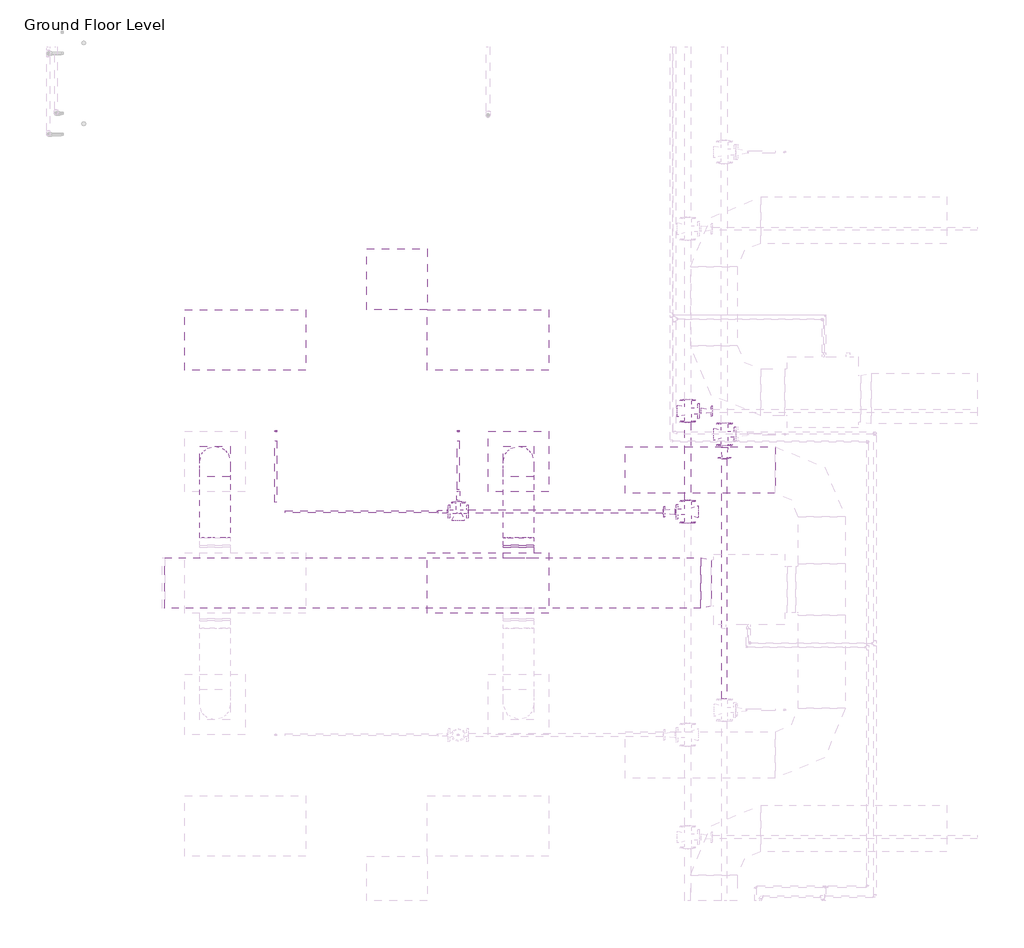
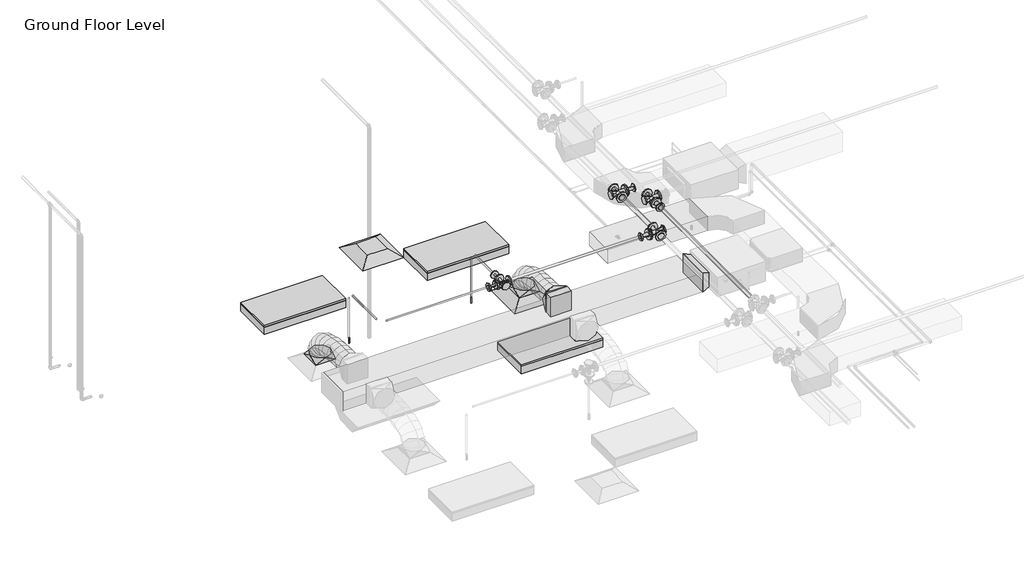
# One storey, part 61 of 73: 9 pipe fittings, 8 pipe segments, 5 duct fittings, 5 duct segments, 3 light fixtures, 2 air terminals, 2 fire suppression terminals.
"""IFC4 building model written with IfcOpenShell, lengths in millimetres."""

from ifc_helpers import new_model, si_unit, point, frame, frame_2d, origin, place, context, project, spatial, polyline, circle_curve, ellipse_curve, trimmed, segment, composite_curve, outline, extrude, transform, mapped, element, save
from ifc_brep_helpers import plane_surface, cylinder_surface, advanced_brep
from components import m_return_diffuser_600_x_600_face_300_x_300_connection_ff221211, m_rectangular_takeoff_standard_2be5eba1, m_rectangular_transition_angle_45_degree_2b595dfe, m_rectangular_to_round_transition_angle_45_degree_641efff0, m_sprinkler_dry_pendent_hosted_15_mm_dry_pendent_9bda8e11, m_troffer_light_parabolic_rectangular1_0600x1200mm_4_lamp_86473d4a, m_reducer_flanged_cs_class_150_standard_ccf252ad, m_reducer_flanged_cs_class_150_standard_3ab32b2b, m_reducer_flanged_cs_class_150_standard_a7631c35, m_tee_round_base_flanged_cs_class_150_standard_dd767e04, m_tee_round_base_flanged_cs_class_150_standard_7e5987a1

model = new_model("IFC4")

# Units and contexts
model_context = context("Model", 3, world=origin())
ifc_project = project(units=[si_unit("LENGTHUNIT", "METRE", prefix="MILLI")], contexts=[model_context])

# Site, building, storey
site = spatial("IfcSite", under=ifc_project)
building = spatial("IfcBuilding", under=site)
storey = spatial("IfcBuildingStorey", under=building, Name="Ground Floor Level", Elevation=900.0)

# Air terminals
placement = place(None, origin())
m_return_diffuser_600_x_600_face_300_x_300_connection_shape = m_return_diffuser_600_x_600_face_300_x_300_connection_ff221211(model_context)
element("IfcAirTerminal", 1, ObjectType="M_Return Diffuser : 600 x 600 Face 300 x 300 Connection", at=placement, inside=storey, context=model_context, shape_type="MappedRepresentation", body=[
    mapped(m_return_diffuser_600_x_600_face_300_x_300_connection_shape, transform((2762.7672395, 7135.2153534, 3650.0), x_axis=(1.0, 0.0, 0.0), y_axis=(0.0, 1.0, 0.0), z_axis=(0.0, 0.0, 1.0))),
])
element("IfcAirTerminal", 2, ObjectType="M_Supply Diffuser : 600 x 600 Face 300 x 300 Connection", at=placement, inside=storey, context=model_context, shape_type="MappedRepresentation", body=[
    mapped(m_return_diffuser_600_x_600_face_300_x_300_connection_shape, transform((3962.7672395, 5335.2153534, 3650.0), x_axis=(1.0, 0.0, 0.0), y_axis=(0.0, 1.0, 0.0), z_axis=(0.0, 0.0, 1.0))),
])

# Duct fittings
m_rectangular_takeoff_standard_shape = m_rectangular_takeoff_standard_2be5eba1(model_context)
element("IfcDuctFitting", 3, ObjectType="M_Rectangular Takeoff : Standard", at=placement, inside=storey, context=model_context, shape_type="MappedRepresentation", body=[
    mapped(m_rectangular_takeoff_standard_shape, transform((3962.7672395, 4385.0199167, 4099.9957478), x_axis=(0.0, 1.0, 0.0), y_axis=(1.0, 0.0, 0.0), z_axis=(0.0, 0.0, -1.0))),
])
m_rectangular_transition_angle_45_degree_shape = m_rectangular_transition_angle_45_degree_2b595dfe(model_context)
element("IfcDuctFitting", 4, ObjectType="M_Rectangular Transition - Angle : 45 Degree", at=placement, inside=storey, context=model_context, shape_type="MappedRepresentation", body=[
    mapped(m_rectangular_transition_angle_45_degree_shape, transform((5868.0139492, 4135.0199167, 4100.0), x_axis=(-1.0, 0.0, 0.0), y_axis=(0.0, -1.0, 0.0), z_axis=(0.0, 0.0, 1.0))),
])
m_rectangular_to_round_transition_angle_45_degree_shape = m_rectangular_to_round_transition_angle_45_degree_641efff0(model_context)
element("IfcDuctFitting", 5, ObjectType="M_Rectangular to Round Transition - Angle : 45 Degree", at=placement, inside=storey, context=model_context, shape_type="MappedRepresentation", body=[
    mapped(m_rectangular_to_round_transition_angle_45_degree_shape, transform((962.7672395, 5335.2153534, 3751.6), x_axis=(0.0, 0.0, 1.0), y_axis=(-1.0, 0.0, 0.0), z_axis=(0.0, -1.0, 0.0))),
])
element("IfcDuctFitting", 6, ObjectType="M_Rectangular to Round Transition - Angle : 45 Degree", at=placement, inside=storey, context=model_context, shape_type="MappedRepresentation", body=[
    mapped(m_rectangular_to_round_transition_angle_45_degree_shape, transform((3962.7672395, 5335.2153534, 3751.6), x_axis=(0.0, 0.0, 1.0), y_axis=(-1.0, 0.0, 0.0), z_axis=(0.0, -1.0, 0.0))),
])
element("IfcDuctFitting", 7, ObjectType="M_Rectangular to Round Transition - Angle : 45 Degree", at=placement, inside=storey, context=model_context, shape_type="MappedRepresentation", body=[
    mapped(m_rectangular_to_round_transition_angle_45_degree_shape, transform((3962.7672395, 4507.8751699, 4099.9957478), x_axis=(0.0, 1.0, 0.0), y_axis=(-1.0, 0.0, 0.0), z_axis=(0.0, 0.0, 1.0))),
])

# Duct segments
element("IfcDuctSegment", 8, ObjectType="Flex - Round", at=placement, inside=storey, context=model_context, shape_type="AdvancedBrep", body=[
    advanced_brep(
    [(1112.7672395, 5335.2153534, 3826.6), (962.7672395, 5185.2153534, 3826.6), (812.7672395, 5335.2153534, 3826.6), (962.7672395, 5485.2153534, 3826.6), (1112.7672395, 5335.2153534, 3857.9381871), (962.7672395, 5185.2153534, 3832.2943835), (812.7672395, 5335.2153534, 3857.9381871), (962.7672395, 5485.2153534, 3883.5819907), (1112.7672395, 5318.1991066, 3906.2507795), (962.7672395, 5184.4618414, 3834.4337577), (812.7672395, 5318.1991066, 3906.2507795), (962.7672395, 5451.9363718, 3978.0678013), (1112.7672395, 5271.0143708, 3968.7107945), (962.7672395, 5166.8104112, 3857.7995469), (812.7672395, 5271.0143708, 3968.7107945), (962.7672395, 5375.2183303, 4079.622042), (1112.7672395, 5199.4571526, 4016.0681304), (962.7672395, 5130.5261535, 3881.8128585), (812.7672395, 5199.4571526, 4016.0681304), (962.7672395, 5268.3881516, 4150.3234022), (1112.7672395, 5109.3234587, 4050.4108726), (962.7672395, 5065.7660366, 3906.4877598), (812.7672395, 5109.3234587, 4050.4108726), (962.7672395, 5152.8808808, 4194.3339853), (1112.7672395, 5006.4092959, 4073.8271066), (962.7672395, 4979.8515391, 3926.0360311), (812.7672395, 5006.4092959, 4073.8271066), (962.7672395, 5032.9670528, 4221.618182), (1112.7672395, 4896.5106709, 4088.4049176), (962.7672395, 4881.3625214, 3939.1003829), (812.7672395, 4896.5106709, 4088.4049176), (962.7672395, 4911.6588205, 4237.7094524), (1112.7672395, 4785.4235904, 4096.2323912), (962.7672395, 4777.9204039, 3946.3891733), (812.7672395, 4785.4235904, 4096.2323912), (962.7672395, 4792.9267769, 4246.0756092), (1112.7672395, 4678.9440611, 4099.3976128), (962.7672395, 4676.2538265, 3949.4113245), (812.7672395, 4678.9440611, 4099.3976128), (962.7672395, 4681.6342958, 4249.383901), (1112.7672395, 4582.8680897, 4099.9886676), (962.7672395, 4583.7908652, 4249.9858292), (812.7672395, 4582.8680897, 4099.9886676), (962.7672395, 4581.9453142, 3949.991506)],
    [
        (0, 1, circle_curve(frame((962.7672395, 5335.2153534, 3826.6), z_axis=(0.0, 0.0, -1.0), x_axis=(1.0, 0.0, 0.0)), 150.0)),
        (1, 2, circle_curve(frame((962.7672395, 5335.2153534, 3826.6), z_axis=(0.0, 0.0, -1.0), x_axis=(1.0, 0.0, 0.0)), 150.0)),
        (2, 3, circle_curve(frame((962.7672395, 5335.2153534, 3826.6), z_axis=(0.0, 0.0, -1.0), x_axis=(1.0, 0.0, 0.0)), 150.0)),
        (3, 0, circle_curve(frame((962.7672395, 5335.2153534, 3826.6), z_axis=(0.0, 0.0, -1.0), x_axis=(1.0, 0.0, 0.0)), 150.0)),
        (0, 4),
        (4, 5, ellipse_curve(frame((962.7672395, 5335.2153534, 3857.9381871), z_axis=(0.0, 0.16851385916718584, -0.9856992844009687), x_axis=(0.0, -0.9856992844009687, -0.16851385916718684)), 152.176229, 150.0)),
        (5, 1),
        (5, 6, ellipse_curve(frame((962.7672395, 5335.2153534, 3857.9381871), z_axis=(0.0, 0.16851385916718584, -0.9856992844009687), x_axis=(0.0, -0.9856992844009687, -0.16851385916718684)), 152.176229, 150.0)),
        (6, 2),
        (6, 7, ellipse_curve(frame((962.7672395, 5335.2153534, 3857.9381871), z_axis=(0.0, 0.16851385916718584, -0.9856992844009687), x_axis=(0.0, -0.9856992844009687, -0.16851385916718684)), 152.176229, 150.0)),
        (7, 3),
        (7, 4, ellipse_curve(frame((962.7672395, 5335.2153534, 3857.9381871), z_axis=(0.0, 0.16851385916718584, -0.9856992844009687), x_axis=(0.0, -0.9856992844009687, -0.16851385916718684)), 152.176229, 150.0)),
        (4, 8),
        (8, 9, ellipse_curve(frame((962.7672395, 5318.1991066, 3906.2507795), z_axis=(0.0, 0.4731018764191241, -0.8810077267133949), x_axis=(0.0, -0.8810077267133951, -0.4731018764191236)), 151.8003318, 150.0)),
        (9, 5),
        (9, 10, ellipse_curve(frame((962.7672395, 5318.1991066, 3906.2507795), z_axis=(0.0, 0.4731018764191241, -0.8810077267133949), x_axis=(0.0, -0.8810077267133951, -0.4731018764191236)), 151.8003318, 150.0)),
        (10, 6),
        (10, 11, ellipse_curve(frame((962.7672395, 5318.1991066, 3906.2507795), z_axis=(0.0, 0.4731018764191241, -0.8810077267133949), x_axis=(0.0, -0.8810077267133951, -0.4731018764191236)), 151.8003318, 150.0)),
        (11, 7),
        (11, 8, ellipse_curve(frame((962.7672395, 5318.1991066, 3906.2507795), z_axis=(0.0, 0.4731018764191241, -0.8810077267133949), x_axis=(0.0, -0.8810077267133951, -0.4731018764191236)), 151.8003318, 150.0)),
        (8, 12),
        (12, 13, ellipse_curve(frame((962.7672395, 5271.0143708, 3968.7107945), z_axis=(0.0, 0.728800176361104, -0.6847264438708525), x_axis=(0.0, -0.6847264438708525, -0.7288001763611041)), 152.1833434, 150.0)),
        (13, 9),
        (13, 14, ellipse_curve(frame((962.7672395, 5271.0143708, 3968.7107945), z_axis=(0.0, 0.728800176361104, -0.6847264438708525), x_axis=(0.0, -0.6847264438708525, -0.7288001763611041)), 152.1833434, 150.0)),
        (14, 10),
        (14, 15, ellipse_curve(frame((962.7672395, 5271.0143708, 3968.7107945), z_axis=(0.0, 0.728800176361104, -0.6847264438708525), x_axis=(0.0, -0.6847264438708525, -0.7288001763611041)), 152.1833434, 150.0)),
        (15, 11),
        (15, 12, ellipse_curve(frame((962.7672395, 5271.0143708, 3968.7107945), z_axis=(0.0, 0.728800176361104, -0.6847264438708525), x_axis=(0.0, -0.6847264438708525, -0.7288001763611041)), 152.1833434, 150.0)),
        (12, 16),
        (16, 17, ellipse_curve(frame((962.7672395, 5199.4571526, 4016.0681304), z_axis=(0.0, 0.8895963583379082, -0.456747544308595), x_axis=(0.0, -0.4567475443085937, -0.8895963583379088)), 150.9170655, 150.0)),
        (17, 13),
        (17, 18, ellipse_curve(frame((962.7672395, 5199.4571526, 4016.0681304), z_axis=(0.0, 0.8895963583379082, -0.456747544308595), x_axis=(0.0, -0.4567475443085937, -0.8895963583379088)), 150.9170655, 150.0)),
        (18, 14),
        (18, 19, ellipse_curve(frame((962.7672395, 5199.4571526, 4016.0681304), z_axis=(0.0, 0.8895963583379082, -0.456747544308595), x_axis=(0.0, -0.4567475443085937, -0.8895963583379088)), 150.9170655, 150.0)),
        (19, 15),
        (19, 16, ellipse_curve(frame((962.7672395, 5199.4571526, 4016.0681304), z_axis=(0.0, 0.8895963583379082, -0.456747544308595), x_axis=(0.0, -0.4567475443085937, -0.8895963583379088)), 150.9170655, 150.0)),
        (16, 20),
        (20, 21, ellipse_curve(frame((962.7672395, 5109.3234587, 4050.4108726), z_axis=(0.0, 0.9571270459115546, -0.2896684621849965), x_axis=(0.0, -0.28966846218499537, -0.957127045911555)), 150.3699152, 150.0)),
        (21, 17),
        (21, 22, ellipse_curve(frame((962.7672395, 5109.3234587, 4050.4108726), z_axis=(0.0, 0.9571270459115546, -0.2896684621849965), x_axis=(0.0, -0.28966846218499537, -0.957127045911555)), 150.3699152, 150.0)),
        (22, 18),
        (22, 23, ellipse_curve(frame((962.7672395, 5109.3234587, 4050.4108726), z_axis=(0.0, 0.9571270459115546, -0.2896684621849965), x_axis=(0.0, -0.28966846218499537, -0.957127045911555)), 150.3699152, 150.0)),
        (23, 19),
        (23, 20, ellipse_curve(frame((962.7672395, 5109.3234587, 4050.4108726), z_axis=(0.0, 0.9571270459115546, -0.2896684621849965), x_axis=(0.0, -0.28966846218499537, -0.957127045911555)), 150.3699152, 150.0)),
        (20, 24),
        (24, 25, ellipse_curve(frame((962.7672395, 5006.4092959, 4073.8271066), z_axis=(0.0, 0.984235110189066, -0.17686505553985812), x_axis=(0.0, -0.17686505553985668, -0.9842351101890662)), 150.1583045, 150.0)),
        (25, 21),
        (25, 26, ellipse_curve(frame((962.7672395, 5006.4092959, 4073.8271066), z_axis=(0.0, 0.984235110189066, -0.17686505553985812), x_axis=(0.0, -0.17686505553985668, -0.9842351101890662)), 150.1583045, 150.0)),
        (26, 22),
        (26, 27, ellipse_curve(frame((962.7672395, 5006.4092959, 4073.8271066), z_axis=(0.0, 0.984235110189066, -0.17686505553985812), x_axis=(0.0, -0.17686505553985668, -0.9842351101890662)), 150.1583045, 150.0)),
        (27, 23),
        (27, 24, ellipse_curve(frame((962.7672395, 5006.4092959, 4073.8271066), z_axis=(0.0, 0.984235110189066, -0.17686505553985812), x_axis=(0.0, -0.17686505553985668, -0.9842351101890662)), 150.1583045, 150.0)),
        (24, 28),
        (28, 29, ellipse_curve(frame((962.7672395, 4896.5106709, 4088.4049176), z_axis=(0.0, 0.9948925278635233, -0.1009398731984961), x_axis=(0.0, -0.10093987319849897, -0.994892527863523)), 150.0710183, 150.0)),
        (29, 25),
        (29, 30, ellipse_curve(frame((962.7672395, 4896.5106709, 4088.4049176), z_axis=(0.0, 0.9948925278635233, -0.1009398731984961), x_axis=(0.0, -0.10093987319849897, -0.994892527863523)), 150.0710183, 150.0)),
        (30, 26),
        (30, 31, ellipse_curve(frame((962.7672395, 4896.5106709, 4088.4049176), z_axis=(0.0, 0.9948925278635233, -0.1009398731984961), x_axis=(0.0, -0.10093987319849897, -0.994892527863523)), 150.0710183, 150.0)),
        (31, 27),
        (31, 28, ellipse_curve(frame((962.7672395, 4896.5106709, 4088.4049176), z_axis=(0.0, 0.9948925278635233, -0.1009398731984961), x_axis=(0.0, -0.10093987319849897, -0.994892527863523)), 150.0710183, 150.0)),
        (28, 32),
        (32, 33, ellipse_curve(frame((962.7672395, 4785.4235904, 4096.2323912), z_axis=(0.0, 0.9987486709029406, -0.05001092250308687), x_axis=(0.0, -0.05001092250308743, -0.9987486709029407)), 150.0309561, 150.0)),
        (33, 29),
        (33, 34, ellipse_curve(frame((962.7672395, 4785.4235904, 4096.2323912), z_axis=(0.0, 0.9987486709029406, -0.05001092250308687), x_axis=(0.0, -0.05001092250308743, -0.9987486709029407)), 150.0309561, 150.0)),
        (34, 30),
        (34, 35, ellipse_curve(frame((962.7672395, 4785.4235904, 4096.2323912), z_axis=(0.0, 0.9987486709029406, -0.05001092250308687), x_axis=(0.0, -0.05001092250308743, -0.9987486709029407)), 150.0309561, 150.0)),
        (35, 31),
        (35, 32, ellipse_curve(frame((962.7672395, 4785.4235904, 4096.2323912), z_axis=(0.0, 0.9987486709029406, -0.05001092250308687), x_axis=(0.0, -0.05001092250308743, -0.9987486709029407)), 150.0309561, 150.0)),
        (32, 36),
        (36, 37, ellipse_curve(frame((962.7672395, 4678.9440611, 4099.3976128), z_axis=(0.0, 0.9998391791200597, -0.017933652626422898), x_axis=(0.0, -0.017933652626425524, -0.9998391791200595)), 150.0104131, 150.0)),
        (37, 33),
        (37, 38, ellipse_curve(frame((962.7672395, 4678.9440611, 4099.3976128), z_axis=(0.0, 0.9998391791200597, -0.017933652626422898), x_axis=(0.0, -0.017933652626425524, -0.9998391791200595)), 150.0104131, 150.0)),
        (38, 34),
        (38, 39, ellipse_curve(frame((962.7672395, 4678.9440611, 4099.3976128), z_axis=(0.0, 0.9998391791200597, -0.017933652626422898), x_axis=(0.0, -0.017933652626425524, -0.9998391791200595)), 150.0104131, 150.0)),
        (39, 35),
        (39, 36, ellipse_curve(frame((962.7672395, 4678.9440611, 4099.3976128), z_axis=(0.0, 0.9998391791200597, -0.017933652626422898), x_axis=(0.0, -0.017933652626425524, -0.9998391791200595)), 150.0104131, 150.0)),
        (40, 41, circle_curve(frame((962.7672395, 4582.8680897, 4099.9886676), z_axis=(0.0, -0.9999810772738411, 0.006151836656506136), x_axis=(1.0, 0.0, 0.0)), 150.0)),
        (41, 42, circle_curve(frame((962.7672395, 4582.8680897, 4099.9886676), z_axis=(0.0, -0.9999810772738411, 0.006151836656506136), x_axis=(1.0, 0.0, 0.0)), 150.0)),
        (42, 43, circle_curve(frame((962.7672395, 4582.8680897, 4099.9886676), z_axis=(0.0, -0.9999810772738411, 0.006151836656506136), x_axis=(1.0, 0.0, 0.0)), 150.0)),
        (43, 40, circle_curve(frame((962.7672395, 4582.8680897, 4099.9886676), z_axis=(0.0, -0.9999810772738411, 0.006151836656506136), x_axis=(1.0, 0.0, 0.0)), 150.0)),
        (36, 40),
        (43, 37),
        (42, 38),
        (41, 39),
    ],
    [
        plane_surface(frame((962.7672395, 5185.2153534, 3826.6), z_axis=(0.0, 0.0, -1.0), x_axis=(1.0, 0.0, 0.0))),
        cylinder_surface(frame((962.7672395, 5335.2153534, 3826.6), z_axis=(0.0, 0.0, -1.0), x_axis=(1.0, 0.0, 0.0)), 150.0),
        cylinder_surface(frame((962.7672395, 5335.2153534, 3857.9381871), z_axis=(0.0, 0.33220798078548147, -0.9432061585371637), x_axis=(1.0, 0.0, 0.0)), 150.0),
        cylinder_surface(frame((962.7672395, 5318.1991066, 3906.2507795), z_axis=(0.0, 0.6027739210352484, -0.7979120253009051), x_axis=(1.0, 0.0, 0.0)), 150.0),
        cylinder_surface(frame((962.7672395, 5271.0143708, 3968.7107945), z_axis=(0.0, 0.8339145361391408, -0.5518936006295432), x_axis=(1.0, 0.0, 0.0)), 150.0),
        cylinder_surface(frame((962.7672395, 5199.4571526, 4016.0681304), z_axis=(0.0, 0.9344667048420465, -0.35605052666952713), x_axis=(1.0, 0.0, 0.0)), 150.0),
        cylinder_surface(frame((962.7672395, 5109.3234587, 4050.4108726), z_axis=(0.0, 0.9750782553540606, -0.2218612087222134), x_axis=(1.0, 0.0, 0.0)), 150.0),
        cylinder_surface(frame((962.7672395, 5006.4092959, 4073.8271066), z_axis=(0.0, 0.9913167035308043, -0.13149598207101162), x_axis=(1.0, 0.0, 0.0)), 150.0),
        cylinder_surface(frame((962.7672395, 4896.5106709, 4088.4049176), z_axis=(0.0, 0.9975267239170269, -0.0702882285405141), x_axis=(1.0, 0.0, 0.0)), 150.0),
        cylinder_surface(frame((962.7672395, 4785.4235904, 4096.2323912), z_axis=(0.0, 0.9995584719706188, -0.029712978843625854), x_axis=(1.0, 0.0, 0.0)), 150.0),
        plane_surface(frame((962.7672395, 4581.9453142, 3949.991506), z_axis=(0.0, -0.9999810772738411, 0.006151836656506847), x_axis=(1.0, 0.0, 0.0))),
        cylinder_surface(frame((962.7672395, 4678.9440611, 4099.3976128), z_axis=(0.0, 0.9999810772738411, -0.006151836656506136), x_axis=(1.0, 0.0, 0.0)), 150.0),
    ],
    [
        (0, [[1, 2, 3, 4]]),
        (1, [[-1, 5, 6, 7]]),
        (1, [[-2, -7, 8, 9]]),
        (1, [[-3, -9, 10, 11]]),
        (1, [[-4, -11, 12, -5]]),
        (2, [[-6, 13, 14, 15]]),
        (2, [[-8, -15, 16, 17]]),
        (2, [[-10, -17, 18, 19]]),
        (2, [[-12, -19, 20, -13]]),
        (3, [[-14, 21, 22, 23]]),
        (3, [[-16, -23, 24, 25]]),
        (3, [[-18, -25, 26, 27]]),
        (3, [[-20, -27, 28, -21]]),
        (4, [[-22, 29, 30, 31]]),
        (4, [[-24, -31, 32, 33]]),
        (4, [[-26, -33, 34, 35]]),
        (4, [[-28, -35, 36, -29]]),
        (5, [[-30, 37, 38, 39]]),
        (5, [[-32, -39, 40, 41]]),
        (5, [[-34, -41, 42, 43]]),
        (5, [[-36, -43, 44, -37]]),
        (6, [[-38, 45, 46, 47]]),
        (6, [[-40, -47, 48, 49]]),
        (6, [[-42, -49, 50, 51]]),
        (6, [[-44, -51, 52, -45]]),
        (7, [[-46, 53, 54, 55]]),
        (7, [[-48, -55, 56, 57]]),
        (7, [[-50, -57, 58, 59]]),
        (7, [[-52, -59, 60, -53]]),
        (8, [[-54, 61, 62, 63]]),
        (8, [[-56, -63, 64, 65]]),
        (8, [[-58, -65, 66, 67]]),
        (8, [[-60, -67, 68, -61]]),
        (9, [[-62, 69, 70, 71]]),
        (9, [[-64, -71, 72, 73]]),
        (9, [[-66, -73, 74, 75]]),
        (9, [[-68, -75, 76, -69]]),
        (10, [[77, 78, 79, 80]]),
        (11, [[-70, 81, -80, 82]]),
        (11, [[-72, -82, -79, 83]]),
        (11, [[-74, -83, -78, 84]]),
        (11, [[-76, -84, -77, -81]]),
    ],
),
])
element("IfcDuctSegment", 9, ObjectType="Flex - Round", at=placement, inside=storey, context=model_context, shape_type="AdvancedBrep", body=[
    advanced_brep(
    [(4112.7672395, 5335.2153534, 3826.6), (3962.7672395, 5185.2153534, 3826.6), (3812.7672395, 5335.2153534, 3826.6), (3962.7672395, 5485.2153534, 3826.6), (4112.7672395, 5335.2153534, 3857.9378899), (3962.7672395, 5185.2153534, 3832.2944495), (3812.7672395, 5335.2153534, 3857.9378899), (3962.7672395, 5485.2153534, 3883.5813304), (4112.7672395, 5318.1993029, 3906.2506504), (3962.7672395, 5184.4615918, 3834.4345644), (3812.7672395, 5318.1993029, 3906.2506504), (3962.7672395, 5451.9370141, 3978.0667363), (4112.7672395, 5271.0151016, 3968.7111185), (3962.7672395, 5166.8099301, 3857.8010943), (3812.7672395, 5271.0151016, 3968.7111185), (3962.7672395, 5375.220273, 4079.6211427), (4112.7672395, 5199.4586743, 4016.0693384), (3962.7672395, 5130.5257656, 3881.8150579), (3812.7672395, 5199.4586743, 4016.0693384), (3962.7672395, 5268.3915831, 4150.3236188), (4112.7672395, 5109.3259463, 4050.413244), (3962.7672395, 5065.7664368, 3906.4907592), (3812.7672395, 5109.3259463, 4050.413244), (3962.7672395, 5152.8854558, 4194.3357287), (4112.7672395, 5006.4128425, 4073.8307693), (3962.7672395, 4979.8531069, 3926.0400441), (3812.7672395, 5006.4128425, 4073.8307693), (3962.7672395, 5032.9725781, 4221.6214946), (4112.7672395, 4896.5152879, 4088.4098484), (3962.7672395, 4881.3654185, 3939.1054831), (3812.7672395, 4896.5152879, 4088.4098484), (3962.7672395, 4911.6651573, 4237.7142137), (4112.7672395, 4785.4292075, 4096.2384151), (3962.7672395, 4777.924683, 3946.3952596), (3812.7672395, 4785.4292075, 4096.2384151), (3962.7672395, 4792.9337321, 4246.0815706), (4112.7672395, 4678.9505265, 4099.4044036), (3962.7672395, 4676.2595056, 3949.4181256), (3812.7672395, 4678.9505265, 4099.4044036), (3962.7672395, 4681.6415474, 4249.3906816), (4112.7672395, 4582.8751699, 4099.9957478), (3962.7672395, 4583.7984029, 4249.9929065), (3812.7672395, 4582.8751699, 4099.9957478), (3962.7672395, 4581.9519368, 3949.998589)],
    [
        (0, 1, circle_curve(frame((3962.7672395, 5335.2153534, 3826.6), z_axis=(0.0, 0.0, -1.0), x_axis=(1.0, 0.0, 0.0)), 150.0)),
        (1, 2, circle_curve(frame((3962.7672395, 5335.2153534, 3826.6), z_axis=(0.0, 0.0, -1.0), x_axis=(1.0, 0.0, 0.0)), 150.0)),
        (2, 3, circle_curve(frame((3962.7672395, 5335.2153534, 3826.6), z_axis=(0.0, 0.0, -1.0), x_axis=(1.0, 0.0, 0.0)), 150.0)),
        (3, 0, circle_curve(frame((3962.7672395, 5335.2153534, 3826.6), z_axis=(0.0, 0.0, -1.0), x_axis=(1.0, 0.0, 0.0)), 150.0)),
        (0, 4),
        (4, 5, ellipse_curve(frame((3962.7672395, 5335.2153534, 3857.9378899), z_axis=(0.0, 0.1685115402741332, -0.9856996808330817), x_axis=(0.0, -0.9856996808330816, -0.16851154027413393)), 152.1761678, 150.0)),
        (5, 1),
        (5, 6, ellipse_curve(frame((3962.7672395, 5335.2153534, 3857.9378899), z_axis=(0.0, 0.1685115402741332, -0.9856996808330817), x_axis=(0.0, -0.9856996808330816, -0.16851154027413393)), 152.1761678, 150.0)),
        (6, 2),
        (6, 7, ellipse_curve(frame((3962.7672395, 5335.2153534, 3857.9378899), z_axis=(0.0, 0.1685115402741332, -0.9856996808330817), x_axis=(0.0, -0.9856996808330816, -0.16851154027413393)), 152.1761678, 150.0)),
        (7, 3),
        (7, 4, ellipse_curve(frame((3962.7672395, 5335.2153534, 3857.9378899), z_axis=(0.0, 0.1685115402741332, -0.9856996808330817), x_axis=(0.0, -0.9856996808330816, -0.16851154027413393)), 152.1761678, 150.0)),
        (4, 8),
        (8, 9, ellipse_curve(frame((3962.7672395, 5318.1993029, 3906.2506504), z_axis=(0.0, 0.47309586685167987, -0.8810109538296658), x_axis=(0.0, -0.8810109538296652, -0.4730958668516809)), 151.8002819, 150.0)),
        (9, 5),
        (9, 10, ellipse_curve(frame((3962.7672395, 5318.1993029, 3906.2506504), z_axis=(0.0, 0.47309586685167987, -0.8810109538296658), x_axis=(0.0, -0.8810109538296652, -0.4730958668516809)), 151.8002819, 150.0)),
        (10, 6),
        (10, 11, ellipse_curve(frame((3962.7672395, 5318.1993029, 3906.2506504), z_axis=(0.0, 0.47309586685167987, -0.8810109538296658), x_axis=(0.0, -0.8810109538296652, -0.4730958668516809)), 151.8002819, 150.0)),
        (11, 7),
        (11, 8, ellipse_curve(frame((3962.7672395, 5318.1993029, 3906.2506504), z_axis=(0.0, 0.47309586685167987, -0.8810109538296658), x_axis=(0.0, -0.8810109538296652, -0.4730958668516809)), 151.8002819, 150.0)),
        (8, 12),
        (12, 13, ellipse_curve(frame((3962.7672395, 5271.0151016, 3968.7111185), z_axis=(0.0, 0.7287924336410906, -0.6847346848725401), x_axis=(0.0, -0.6847346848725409, -0.7287924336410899)), 152.1832817, 150.0)),
        (13, 9),
        (13, 14, ellipse_curve(frame((3962.7672395, 5271.0151016, 3968.7111185), z_axis=(0.0, 0.7287924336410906, -0.6847346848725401), x_axis=(0.0, -0.6847346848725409, -0.7287924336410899)), 152.1832817, 150.0)),
        (14, 10),
        (14, 15, ellipse_curve(frame((3962.7672395, 5271.0151016, 3968.7111185), z_axis=(0.0, 0.7287924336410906, -0.6847346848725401), x_axis=(0.0, -0.6847346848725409, -0.7287924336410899)), 152.1832817, 150.0)),
        (15, 11),
        (15, 12, ellipse_curve(frame((3962.7672395, 5271.0151016, 3968.7111185), z_axis=(0.0, 0.7287924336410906, -0.6847346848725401), x_axis=(0.0, -0.6847346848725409, -0.7287924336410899)), 152.1832817, 150.0)),
        (12, 16),
        (16, 17, ellipse_curve(frame((3962.7672395, 5199.4586743, 4016.0693384), z_axis=(0.0, 0.8895898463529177, -0.45676022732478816), x_axis=(0.0, -0.456760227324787, -0.8895898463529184)), 150.9170558, 150.0)),
        (17, 13),
        (17, 18, ellipse_curve(frame((3962.7672395, 5199.4586743, 4016.0693384), z_axis=(0.0, 0.8895898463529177, -0.45676022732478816), x_axis=(0.0, -0.456760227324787, -0.8895898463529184)), 150.9170558, 150.0)),
        (18, 14),
        (18, 19, ellipse_curve(frame((3962.7672395, 5199.4586743, 4016.0693384), z_axis=(0.0, 0.8895898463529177, -0.45676022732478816), x_axis=(0.0, -0.456760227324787, -0.8895898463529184)), 150.9170558, 150.0)),
        (19, 15),
        (19, 16, ellipse_curve(frame((3962.7672395, 5199.4586743, 4016.0693384), z_axis=(0.0, 0.8895898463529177, -0.45676022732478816), x_axis=(0.0, -0.456760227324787, -0.8895898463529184)), 150.9170558, 150.0)),
        (16, 20),
        (20, 21, ellipse_curve(frame((3962.7672395, 5109.3259463, 4050.413244), z_axis=(0.0, 0.9571228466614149, -0.28968233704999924), x_axis=(0.0, -0.28968233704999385, -0.9571228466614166)), 150.3699188, 150.0)),
        (21, 17),
        (21, 22, ellipse_curve(frame((3962.7672395, 5109.3259463, 4050.413244), z_axis=(0.0, 0.9571228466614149, -0.28968233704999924), x_axis=(0.0, -0.28968233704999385, -0.9571228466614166)), 150.3699188, 150.0)),
        (22, 18),
        (22, 23, ellipse_curve(frame((3962.7672395, 5109.3259463, 4050.413244), z_axis=(0.0, 0.9571228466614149, -0.28968233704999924), x_axis=(0.0, -0.28968233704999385, -0.9571228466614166)), 150.3699188, 150.0)),
        (23, 19),
        (23, 20, ellipse_curve(frame((3962.7672395, 5109.3259463, 4050.413244), z_axis=(0.0, 0.9571228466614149, -0.28968233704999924), x_axis=(0.0, -0.28968233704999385, -0.9571228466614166)), 150.3699188, 150.0)),
        (20, 24),
        (24, 25, ellipse_curve(frame((3962.7672395, 5006.4128425, 4073.8307693), z_axis=(0.0, 0.9842327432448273, -0.17687822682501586), x_axis=(0.0, -0.176878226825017, -0.9842327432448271)), 150.1583099, 150.0)),
        (25, 21),
        (25, 26, ellipse_curve(frame((3962.7672395, 5006.4128425, 4073.8307693), z_axis=(0.0, 0.9842327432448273, -0.17687822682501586), x_axis=(0.0, -0.176878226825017, -0.9842327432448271)), 150.1583099, 150.0)),
        (26, 22),
        (26, 27, ellipse_curve(frame((3962.7672395, 5006.4128425, 4073.8307693), z_axis=(0.0, 0.9842327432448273, -0.17687822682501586), x_axis=(0.0, -0.176878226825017, -0.9842327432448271)), 150.1583099, 150.0)),
        (27, 23),
        (27, 24, ellipse_curve(frame((3962.7672395, 5006.4128425, 4073.8307693), z_axis=(0.0, 0.9842327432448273, -0.17687822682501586), x_axis=(0.0, -0.176878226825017, -0.9842327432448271)), 150.1583099, 150.0)),
        (24, 28),
        (28, 29, ellipse_curve(frame((3962.7672395, 4896.5152879, 4088.4098484), z_axis=(0.0, 0.9948913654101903, -0.10095133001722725), x_axis=(0.0, -0.10095133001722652, -0.9948913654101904)), 150.0710233, 150.0)),
        (29, 25),
        (29, 30, ellipse_curve(frame((3962.7672395, 4896.5152879, 4088.4098484), z_axis=(0.0, 0.9948913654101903, -0.10095133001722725), x_axis=(0.0, -0.10095133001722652, -0.9948913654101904)), 150.0710233, 150.0)),
        (30, 26),
        (30, 31, ellipse_curve(frame((3962.7672395, 4896.5152879, 4088.4098484), z_axis=(0.0, 0.9948913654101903, -0.10095133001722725), x_axis=(0.0, -0.10095133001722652, -0.9948913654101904)), 150.0710233, 150.0)),
        (31, 27),
        (31, 28, ellipse_curve(frame((3962.7672395, 4896.5152879, 4088.4098484), z_axis=(0.0, 0.9948913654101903, -0.10095133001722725), x_axis=(0.0, -0.10095133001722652, -0.9948913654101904)), 150.0710233, 150.0)),
        (28, 32),
        (32, 33, ellipse_curve(frame((3962.7672395, 4785.4292075, 4096.2384151), z_axis=(0.0, 0.9987482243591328, -0.05001983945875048), x_axis=(0.0, -0.05001983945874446, -0.9987482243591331)), 150.0309606, 150.0)),
        (33, 29),
        (33, 34, ellipse_curve(frame((3962.7672395, 4785.4292075, 4096.2384151), z_axis=(0.0, 0.9987482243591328, -0.05001983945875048), x_axis=(0.0, -0.05001983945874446, -0.9987482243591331)), 150.0309606, 150.0)),
        (34, 30),
        (34, 35, ellipse_curve(frame((3962.7672395, 4785.4292075, 4096.2384151), z_axis=(0.0, 0.9987482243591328, -0.05001983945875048), x_axis=(0.0, -0.05001983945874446, -0.9987482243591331)), 150.0309606, 150.0)),
        (35, 31),
        (35, 32, ellipse_curve(frame((3962.7672395, 4785.4292075, 4096.2384151), z_axis=(0.0, 0.9987482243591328, -0.05001983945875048), x_axis=(0.0, -0.05001983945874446, -0.9987482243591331)), 150.0309606, 150.0)),
        (32, 36),
        (36, 37, ellipse_curve(frame((3962.7672395, 4678.9505265, 4099.4044036), z_axis=(0.0, 0.9998390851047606, -0.017938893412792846), x_axis=(0.0, -0.01793889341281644, -0.99983908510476)), 150.0104169, 150.0)),
        (37, 33),
        (37, 38, ellipse_curve(frame((3962.7672395, 4678.9505265, 4099.4044036), z_axis=(0.0, 0.9998390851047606, -0.017938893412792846), x_axis=(0.0, -0.01793889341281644, -0.99983908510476)), 150.0104169, 150.0)),
        (38, 34),
        (38, 39, ellipse_curve(frame((3962.7672395, 4678.9505265, 4099.4044036), z_axis=(0.0, 0.9998390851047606, -0.017938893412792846), x_axis=(0.0, -0.01793889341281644, -0.99983908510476)), 150.0104169, 150.0)),
        (39, 35),
        (39, 36, ellipse_curve(frame((3962.7672395, 4678.9505265, 4099.4044036), z_axis=(0.0, 0.9998390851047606, -0.017938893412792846), x_axis=(0.0, -0.01793889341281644, -0.99983908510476)), 150.0104169, 150.0)),
        (40, 41, circle_curve(frame((3962.7672395, 4582.8751699, 4099.9957478), z_axis=(0.0, -0.9999810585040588, 0.006154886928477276), x_axis=(1.0, 0.0, 0.0)), 150.0)),
        (41, 42, circle_curve(frame((3962.7672395, 4582.8751699, 4099.9957478), z_axis=(0.0, -0.9999810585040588, 0.006154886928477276), x_axis=(1.0, 0.0, 0.0)), 150.0)),
        (42, 43, circle_curve(frame((3962.7672395, 4582.8751699, 4099.9957478), z_axis=(0.0, -0.9999810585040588, 0.006154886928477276), x_axis=(1.0, 0.0, 0.0)), 150.0)),
        (43, 40, circle_curve(frame((3962.7672395, 4582.8751699, 4099.9957478), z_axis=(0.0, -0.9999810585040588, 0.006154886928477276), x_axis=(1.0, 0.0, 0.0)), 150.0)),
        (36, 40),
        (43, 37),
        (42, 38),
        (41, 39),
    ],
    [
        plane_surface(frame((3962.7672395, 5185.2153534, 3826.6), z_axis=(0.0, 0.0, -1.0), x_axis=(1.0, 0.0, 0.0))),
        cylinder_surface(frame((3962.7672395, 5335.2153534, 3826.6), z_axis=(0.0, 0.0, -1.0), x_axis=(1.0, 0.0, 0.0)), 150.0),
        cylinder_surface(frame((3962.7672395, 5335.2153534, 3857.9378899), z_axis=(0.0, 0.3322035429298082, -0.9432077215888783), x_axis=(1.0, 0.0, 0.0)), 150.0),
        cylinder_surface(frame((3962.7672395, 5318.1993029, 3906.2506504), z_axis=(0.0, 0.6027667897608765, -0.797917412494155), x_axis=(1.0, 0.0, 0.0)), 150.0),
        cylinder_surface(frame((3962.7672395, 5271.0151016, 3968.7111185), z_axis=(0.0, 0.8339069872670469, -0.5519050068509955), x_axis=(1.0, 0.0, 0.0)), 150.0),
        cylinder_surface(frame((3962.7672395, 5199.4586743, 4016.0693384), z_axis=(0.0, 0.934461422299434, -0.35606439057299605), x_axis=(1.0, 0.0, 0.0)), 150.0),
        cylinder_surface(frame((3962.7672395, 5109.3259463, 4050.413244), z_axis=(0.0, 0.9750751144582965, -0.22187501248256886), x_axis=(1.0, 0.0, 0.0)), 150.0),
        cylinder_surface(frame((3962.7672395, 5006.4128425, 4073.8307693), z_axis=(0.0, 0.9913150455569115, -0.1315084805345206), x_axis=(1.0, 0.0, 0.0)), 150.0),
        cylinder_surface(frame((3962.7672395, 4896.5152879, 4088.4098484), z_axis=(0.0, 0.997525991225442, -0.07029862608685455), x_axis=(1.0, 0.0, 0.0)), 150.0),
        cylinder_surface(frame((3962.7672395, 4785.4292075, 4096.2384151), z_axis=(0.0, 0.9995582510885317, -0.029720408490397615), x_axis=(1.0, 0.0, 0.0)), 150.0),
        plane_surface(frame((3962.7672395, 4581.9519368, 3949.998589), z_axis=(0.0, -0.9999810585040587, 0.006154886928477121), x_axis=(1.0, 0.0, 0.0))),
        cylinder_surface(frame((3962.7672395, 4678.9505265, 4099.4044036), z_axis=(0.0, 0.9999810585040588, -0.006154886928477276), x_axis=(1.0, 0.0, 0.0)), 150.0),
    ],
    [
        (0, [[1, 2, 3, 4]]),
        (1, [[-1, 5, 6, 7]]),
        (1, [[-2, -7, 8, 9]]),
        (1, [[-3, -9, 10, 11]]),
        (1, [[-4, -11, 12, -5]]),
        (2, [[-6, 13, 14, 15]]),
        (2, [[-8, -15, 16, 17]]),
        (2, [[-10, -17, 18, 19]]),
        (2, [[-12, -19, 20, -13]]),
        (3, [[-14, 21, 22, 23]]),
        (3, [[-16, -23, 24, 25]]),
        (3, [[-18, -25, 26, 27]]),
        (3, [[-20, -27, 28, -21]]),
        (4, [[-22, 29, 30, 31]]),
        (4, [[-24, -31, 32, 33]]),
        (4, [[-26, -33, 34, 35]]),
        (4, [[-28, -35, 36, -29]]),
        (5, [[-30, 37, 38, 39]]),
        (5, [[-32, -39, 40, 41]]),
        (5, [[-34, -41, 42, 43]]),
        (5, [[-36, -43, 44, -37]]),
        (6, [[-38, 45, 46, 47]]),
        (6, [[-40, -47, 48, 49]]),
        (6, [[-42, -49, 50, 51]]),
        (6, [[-44, -51, 52, -45]]),
        (7, [[-46, 53, 54, 55]]),
        (7, [[-48, -55, 56, 57]]),
        (7, [[-50, -57, 58, 59]]),
        (7, [[-52, -59, 60, -53]]),
        (8, [[-54, 61, 62, 63]]),
        (8, [[-56, -63, 64, 65]]),
        (8, [[-58, -65, 66, 67]]),
        (8, [[-60, -67, 68, -61]]),
        (9, [[-62, 69, 70, 71]]),
        (9, [[-64, -71, 72, 73]]),
        (9, [[-66, -73, 74, 75]]),
        (9, [[-68, -75, 76, -69]]),
        (10, [[77, 78, 79, 80]]),
        (11, [[-70, 81, -80, 82]]),
        (11, [[-72, -82, -79, 83]]),
        (11, [[-74, -83, -78, 84]]),
        (11, [[-76, -84, -77, -81]]),
    ],
),
])
element("IfcDuctSegment", 10, ObjectType="Radius Elbows / Taps", at=placement, inside=storey, context=model_context, shape_type="SweptSolid", body=[
    extrude(outline(polyline([(0.0, -500.0), (0.0, 0.0), (5296.5207711, 0.0), (5296.5207711, -500.0), (0.0, -500.0)])), frame((5764.5350744, 3885.0199167, 3950.0), z_axis=(-2.360039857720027e-06, 0.0, 0.9999999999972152), x_axis=(-0.9999999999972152, 0.0, -2.360039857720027e-06)), (0.0, 0.0, 1.0), 300.0),
])
element("IfcDuctSegment", 11, ObjectType="Radius Elbows / Taps", at=placement, inside=storey, context=model_context, shape_type="SweptSolid", body=[
    extrude(outline(polyline([(6496.9389492, 5482.4574167), (6496.9389492, 5020.5824167), (5018.8139492, 5020.5824167), (5018.8139492, 5482.4574167), (6496.9389492, 5482.4574167)])), frame((0.0, 0.0, 3968.1375), z_axis=(0.0, 0.0, 1.0), x_axis=(1.0, 0.0, 0.0)), (0.0, 0.0, 1.0), 214.3),
])
element("IfcDuctSegment", 12, ObjectType="Radius Elbows / Taps", at=placement, inside=storey, context=model_context, shape_type="SweptSolid", body=[
    extrude(outline(polyline([(4112.7672395, 4486.6199167), (3812.7672395, 4486.6199167), (3812.7672395, 4507.8751699), (4112.7672395, 4507.8751699), (4112.7672395, 4486.6199167)])), frame((0.0, 0.0, 3949.9957478), z_axis=(0.0, 0.0, 1.0), x_axis=(1.0, 0.0, 0.0)), (0.0, 0.0, 1.0), 300.0),
])

# Fire suppression terminals
m_sprinkler_dry_pendent_hosted_15_mm_dry_pendent_shape = m_sprinkler_dry_pendent_hosted_15_mm_dry_pendent_9bda8e11(model_context)
element("IfcFireSuppressionTerminal", 13, ObjectType="M_Sprinkler - Dry - Pendent - Hosted : 15 mm Dry Pendent", at=placement, inside=storey, context=model_context, shape_type="MappedRepresentation", body=[
    mapped(m_sprinkler_dry_pendent_hosted_15_mm_dry_pendent_shape, transform((3367.3772563, 5635.2153534, 3650.0), x_axis=(1.0, 0.0, 0.0), y_axis=(0.0, -1.0, 0.0), z_axis=(0.0, 0.0, -1.0))),
])
element("IfcFireSuppressionTerminal", 14, ObjectType="M_Sprinkler - Dry - Pendent - Hosted : 15 mm Dry Pendent", at=placement, inside=storey, context=model_context, shape_type="MappedRepresentation", body=[
    mapped(m_sprinkler_dry_pendent_hosted_15_mm_dry_pendent_shape, transform((1565.5763283, 5635.2153534, 3650.0), x_axis=(1.0, 0.0, 0.0), y_axis=(0.0, -1.0, 0.0), z_axis=(0.0, 0.0, -1.0))),
])

# Light fixtures
m_troffer_light_parabolic_rectangular1_0600x1200mm_4_lamp_shape = m_troffer_light_parabolic_rectangular1_0600x1200mm_4_lamp_86473d4a(model_context)
element("IfcLightFixture", 15, ObjectType="M_Troffer Light - Parabolic Rectangular1 : 0600x1200mm(4 Lamp) - 277V 2", at=placement, inside=storey, context=model_context, shape_type="MappedRepresentation", body=[
    mapped(m_troffer_light_parabolic_rectangular1_0600x1200mm_4_lamp_shape, transform((1281.4707411, 6594.6812855, 3650.0), x_axis=(1.0, 0.0, 0.0), y_axis=(0.0, 1.0, 0.0), z_axis=(0.0, 0.0, 1.0))),
])
element("IfcLightFixture", 16, ObjectType="M_Troffer Light - Parabolic Rectangular1 : 0600x1200mm(4 Lamp) - 277V 2", at=placement, inside=storey, context=model_context, shape_type="MappedRepresentation", body=[
    mapped(m_troffer_light_parabolic_rectangular1_0600x1200mm_4_lamp_shape, transform((3681.4707411, 6594.6812855, 3650.0), x_axis=(1.0, 0.0, 0.0), y_axis=(0.0, 1.0, 0.0), z_axis=(0.0, 0.0, 1.0))),
])
element("IfcLightFixture", 17, ObjectType="M_Troffer Light - Parabolic Rectangular1 : 0600x1200mm(4 Lamp) - 277V 2", at=placement, inside=storey, context=model_context, shape_type="MappedRepresentation", body=[
    mapped(m_troffer_light_parabolic_rectangular1_0600x1200mm_4_lamp_shape, transform((3681.4707411, 4194.6812855, 3650.0), x_axis=(1.0, 0.0, 0.0), y_axis=(0.0, 1.0, 0.0), z_axis=(0.0, 0.0, 1.0))),
])

# Pipe fittings
m_reducer_flanged_cs_class_150_standard_shape = m_reducer_flanged_cs_class_150_standard_ccf252ad(model_context)
element("IfcPipeFitting", 18, ObjectType="M_Reducer - Flanged - CS - Class 150 : Standard", at=placement, inside=storey, context=model_context, shape_type="MappedRepresentation", body=[
    mapped(m_reducer_flanged_cs_class_150_standard_shape, transform((3367.3772563, 4940.578485, 4360.0), x_axis=(0.0, 1.0, 0.0), y_axis=(-1.0, 0.0, 0.0), z_axis=(0.0, 0.0, 1.0))),
])
element("IfcPipeFitting", 19, ObjectType="M_Reducer - Flanged - CS - Class 150 : Standard", at=placement, inside=storey, context=model_context, shape_type="MappedRepresentation", body=[
    mapped(m_reducer_flanged_cs_class_150_standard_shape, transform((3266.6686625, 4839.8698912, 4360.0), x_axis=(-1.0, 0.0, 0.0), y_axis=(0.0, -1.0, 0.0), z_axis=(0.0, 0.0, 1.0))),
])
m_reducer_flanged_cs_class_150_standard_2_shape = m_reducer_flanged_cs_class_150_standard_3ab32b2b(model_context)
element("IfcPipeFitting", 20, ObjectType="M_Reducer - Flanged - CS - Class 150 : Standard", at=placement, inside=storey, context=model_context, shape_type="MappedRepresentation", body=[
    mapped(m_reducer_flanged_cs_class_150_standard_2_shape, transform((5997.057812, 5491.2153637, 4291.0695218), x_axis=(0.0, -1.0, 0.0), y_axis=(1.0, 0.0, 0.0), z_axis=(0.0, 0.0, 1.0))),
])
m_reducer_flanged_cs_class_150_standard_3_shape = m_reducer_flanged_cs_class_150_standard_a7631c35(model_context)
element("IfcPipeFitting", 21, ObjectType="M_Reducer - Flanged - CS - Class 150 : Standard", at=placement, inside=storey, context=model_context, shape_type="MappedRepresentation", body=[
    mapped(m_reducer_flanged_cs_class_150_standard_3_shape, transform((5749.869498, 5835.2153534, 4360.0), x_axis=(1.0, 0.0, 0.0), y_axis=(0.0, 0.0, 1.0), z_axis=(0.0, -1.0, 0.0))),
])
element("IfcPipeFitting", 22, ObjectType="M_Reducer - Flanged - CS - Class 150 : Standard", at=placement, inside=storey, context=model_context, shape_type="MappedRepresentation", body=[
    mapped(m_reducer_flanged_cs_class_150_standard_3_shape, transform((5521.869498, 4839.8698912, 4360.0), x_axis=(-1.0, 0.0, 0.0), y_axis=(0.0, -1.0, 0.0), z_axis=(0.0, 0.0, 1.0))),
])
m_tee_round_base_flanged_cs_class_150_standard_shape = m_tee_round_base_flanged_cs_class_150_standard_dd767e04(model_context)
element("IfcPipeFitting", 23, ObjectType="M_Tee Round Base - Flanged - CS - Class 150 : Standard", at=placement, inside=storey, context=model_context, shape_type="MappedRepresentation", body=[
    mapped(m_tee_round_base_flanged_cs_class_150_standard_shape, transform((5997.057812, 5605.2153637, 4291.0695218), x_axis=(0.0, 1.0, 0.0), y_axis=(-1.0, 0.0, 0.0), z_axis=(0.0, 0.0, 1.0))),
])
element("IfcPipeFitting", 24, ObjectType="M_Tee Round Base - Flanged - CS - Class 150 : Standard", at=placement, inside=storey, context=model_context, shape_type="MappedRepresentation", body=[
    mapped(m_tee_round_base_flanged_cs_class_150_standard_shape, transform((5635.869498, 5835.2153534, 4360.0), x_axis=(0.0, 1.0, 0.0), y_axis=(-1.0, 0.0, 0.0), z_axis=(0.0, 0.0, 1.0))),
])
element("IfcPipeFitting", 25, ObjectType="M_Tee Round Base - Flanged - CS - Class 150 : Standard", at=placement, inside=storey, context=model_context, shape_type="MappedRepresentation", body=[
    mapped(m_tee_round_base_flanged_cs_class_150_standard_shape, transform((5635.869498, 4839.8698912, 4360.0), x_axis=(0.0, 1.0, 0.0), y_axis=(1.0, 0.0, 0.0), z_axis=(0.0, 0.0, -1.0))),
])
m_tee_round_base_flanged_cs_class_150_standard_2_shape = m_tee_round_base_flanged_cs_class_150_standard_7e5987a1(model_context)
element("IfcPipeFitting", 26, ObjectType="M_Tee Round Base - Flanged - CS - Class 150 : Standard", at=placement, inside=storey, context=model_context, shape_type="MappedRepresentation", body=[
    mapped(m_tee_round_base_flanged_cs_class_150_standard_2_shape, transform((3367.3772563, 4839.8698912, 4360.0), x_axis=(1.0, 0.0, 0.0), y_axis=(0.0, -1.0, 0.0), z_axis=(0.0, 0.0, -1.0))),
])

# Pipe segments
element("IfcPipeSegment", 27, ObjectType="Steel flanged", at=placement, inside=storey, context=model_context, shape_type="SweptSolid", body=[
    extrude(outline(composite_curve([segment(trimmed(circle_curve(frame_2d((0.0, 24.13)), 24.13), [point((0.0, 0.0))], [point((-24.13, 24.13))], False, "CARTESIAN"), True, "CONTINUOUS"), segment(trimmed(circle_curve(frame_2d((0.0, 24.13)), 24.13), [point((-24.13, 24.13))], [point((0.0, 48.26))], False, "CARTESIAN"), True, "CONTINUOUS"), segment(trimmed(circle_curve(frame_2d((0.0, 24.13)), 24.13), [point((0.0, 48.26))], [point((24.13, 24.13))], False, "CARTESIAN"), True, "CONTINUOUS"), segment(trimmed(circle_curve(frame_2d((0.0, 24.13)), 24.13), [point((24.13, 24.13))], [point((0.0, 0.0))], False, "CARTESIAN"), True, "CONTINUOUS")], self_intersect=False)), frame((5972.927812, 5364.2153637, 4291.0695218), z_axis=(0.0, -0.9999999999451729, 1.0471597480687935e-05), x_axis=(0.0, -1.0471597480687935e-05, -0.9999999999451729)), (0.0, 0.0, 1.0), 2370.4433135),
])
element("IfcPipeSegment", 28, ObjectType="Steel flanged", at=placement, inside=storey, context=model_context, shape_type="SweptSolid", body=[
    extrude(outline(composite_curve([segment(trimmed(circle_curve(frame_2d((4360.0, 5635.869498)), 30.1625), [point((4360.0, 5605.706998))], [point((4329.8375, 5635.869498))], False, "CARTESIAN"), True, "CONTINUOUS"), segment(trimmed(circle_curve(frame_2d((4360.0, 5635.869498)), 30.1625), [point((4329.8375, 5635.869498))], [point((4360.0, 5666.031998))], False, "CARTESIAN"), True, "CONTINUOUS"), segment(trimmed(circle_curve(frame_2d((4360.0, 5635.869498)), 30.1625), [point((4360.0, 5666.031998))], [point((4390.1625, 5635.869498))], False, "CARTESIAN"), True, "CONTINUOUS"), segment(trimmed(circle_curve(frame_2d((4360.0, 5635.869498)), 30.1625), [point((4390.1625, 5635.869498))], [point((4360.0, 5605.706998))], False, "CARTESIAN"), True, "CONTINUOUS")], self_intersect=False)), frame((0.0, 4953.8698912, 0.0), z_axis=(0.0, 1.0, 0.0), x_axis=(0.0, 0.0, 1.0)), (0.0, 0.0, 1.0), 767.3454622),
])
element("IfcPipeSegment", 29, ObjectType="Steel flanged", at=placement, inside=storey, context=model_context, shape_type="SweptSolid", body=[
    extrude(outline(composite_curve([segment(trimmed(circle_curve(frame_2d((1565.5763283, 5635.2153534)), 10.668), [point((1554.9083283, 5635.2153534))], [point((1565.5763283, 5645.8833534))], False, "CARTESIAN"), True, "CONTINUOUS"), segment(trimmed(circle_curve(frame_2d((1565.5763283, 5635.2153534)), 10.668), [point((1565.5763283, 5645.8833534))], [point((1576.2443283, 5635.2153534))], False, "CARTESIAN"), True, "CONTINUOUS"), segment(trimmed(circle_curve(frame_2d((1565.5763283, 5635.2153534)), 10.668), [point((1576.2443283, 5635.2153534))], [point((1565.5763283, 5624.5473534))], False, "CARTESIAN"), True, "CONTINUOUS"), segment(trimmed(circle_curve(frame_2d((1565.5763283, 5635.2153534)), 10.668), [point((1565.5763283, 5624.5473534))], [point((1554.9083283, 5635.2153534))], False, "CARTESIAN"), True, "CONTINUOUS")], self_intersect=False)), frame((0.0, 0.0, 3650.0), z_axis=(0.0, 0.0, 1.0), x_axis=(1.0, 0.0, 0.0)), (0.0, 0.0, 1.0), 616.9914063),
])
element("IfcPipeSegment", 30, ObjectType="Steel flanged", at=placement, inside=storey, context=model_context, shape_type="SweptSolid", body=[
    extrude(outline(composite_curve([segment(trimmed(circle_curve(frame_2d((4360.0, 1565.5763283)), 10.668), [point((4360.0, 1554.9083283))], [point((4349.332, 1565.5763283))], False, "CARTESIAN"), True, "CONTINUOUS"), segment(trimmed(circle_curve(frame_2d((4360.0, 1565.5763283)), 10.668), [point((4349.332, 1565.5763283))], [point((4360.0, 1576.2443283))], False, "CARTESIAN"), True, "CONTINUOUS"), segment(trimmed(circle_curve(frame_2d((4360.0, 1565.5763283)), 10.668), [point((4360.0, 1576.2443283))], [point((4370.668, 1565.5763283))], False, "CARTESIAN"), True, "CONTINUOUS"), segment(trimmed(circle_curve(frame_2d((4360.0, 1565.5763283)), 10.668), [point((4370.668, 1565.5763283))], [point((4360.0, 1554.9083283))], False, "CARTESIAN"), True, "CONTINUOUS")], self_intersect=False)), frame((0.0, 4932.878485, 0.0), z_axis=(0.0, 1.0, 0.0), x_axis=(0.0, 0.0, 1.0)), (0.0, 0.0, 1.0), 609.3282747),
])
element("IfcPipeSegment", 31, ObjectType="Steel flanged", at=placement, inside=storey, context=model_context, shape_type="SweptSolid", body=[
    extrude(outline(composite_curve([segment(trimmed(circle_curve(frame_2d((3367.3772563, 5635.2153534)), 10.668), [point((3356.7092563, 5635.2153534))], [point((3367.3772563, 5645.8833534))], False, "CARTESIAN"), True, "CONTINUOUS"), segment(trimmed(circle_curve(frame_2d((3367.3772563, 5635.2153534)), 10.668), [point((3367.3772563, 5645.8833534))], [point((3378.0452563, 5635.2153534))], False, "CARTESIAN"), True, "CONTINUOUS"), segment(trimmed(circle_curve(frame_2d((3367.3772563, 5635.2153534)), 10.668), [point((3378.0452563, 5635.2153534))], [point((3367.3772563, 5624.5473534))], False, "CARTESIAN"), True, "CONTINUOUS"), segment(trimmed(circle_curve(frame_2d((3367.3772563, 5635.2153534)), 10.668), [point((3367.3772563, 5624.5473534))], [point((3356.7092563, 5635.2153534))], False, "CARTESIAN"), True, "CONTINUOUS")], self_intersect=False)), frame((0.0, 0.0, 3650.0), z_axis=(0.0, 0.0, 1.0), x_axis=(1.0, 0.0, 0.0)), (0.0, 0.0, 1.0), 616.9914063),
])
element("IfcPipeSegment", 32, ObjectType="Steel flanged", at=placement, inside=storey, context=model_context, shape_type="SweptSolid", body=[
    extrude(outline(composite_curve([segment(trimmed(circle_curve(frame_2d((4360.0, 3367.3772563)), 10.668), [point((4360.0, 3356.7092563))], [point((4349.332, 3367.3772563))], False, "CARTESIAN"), True, "CONTINUOUS"), segment(trimmed(circle_curve(frame_2d((4360.0, 3367.3772563)), 10.668), [point((4349.332, 3367.3772563))], [point((4360.0, 3378.0452563))], False, "CARTESIAN"), True, "CONTINUOUS"), segment(trimmed(circle_curve(frame_2d((4360.0, 3367.3772563)), 10.668), [point((4360.0, 3378.0452563))], [point((4370.668, 3367.3772563))], False, "CARTESIAN"), True, "CONTINUOUS"), segment(trimmed(circle_curve(frame_2d((4360.0, 3367.3772563)), 10.668), [point((4370.668, 3367.3772563))], [point((4360.0, 3356.7092563))], False, "CARTESIAN"), True, "CONTINUOUS")], self_intersect=False)), frame((0.0, 5054.578485, 0.0), z_axis=(0.0, 1.0, 0.0), x_axis=(0.0, 0.0, 1.0)), (0.0, 0.0, 1.0), 487.6282747),
])
element("IfcPipeSegment", 33, ObjectType="Steel flanged", at=placement, inside=storey, context=model_context, shape_type="SweptSolid", body=[
    extrude(outline(composite_curve([segment(trimmed(circle_curve(frame_2d((4839.8698912, 4360.0)), 10.668), [point((4850.5378912, 4360.0))], [point((4839.8698912, 4349.332))], False, "CARTESIAN"), True, "CONTINUOUS"), segment(trimmed(circle_curve(frame_2d((4839.8698912, 4360.0)), 10.668), [point((4839.8698912, 4349.332))], [point((4829.2018912, 4360.0))], False, "CARTESIAN"), True, "CONTINUOUS"), segment(trimmed(circle_curve(frame_2d((4839.8698912, 4360.0)), 10.668), [point((4829.2018912, 4360.0))], [point((4839.8698912, 4370.668))], False, "CARTESIAN"), True, "CONTINUOUS"), segment(trimmed(circle_curve(frame_2d((4839.8698912, 4360.0)), 10.668), [point((4839.8698912, 4370.668))], [point((4850.5378912, 4360.0))], False, "CARTESIAN"), True, "CONTINUOUS")], self_intersect=False)), frame((1658.584922, 0.0, 0.0), z_axis=(1.0, 0.0, 0.0), x_axis=(0.0, 1.0, 0.0)), (0.0, 0.0, 1.0), 1494.0837405),
])
element("IfcPipeSegment", 34, ObjectType="Steel flanged", at=placement, inside=storey, context=model_context, shape_type="SweptSolid", body=[
    extrude(outline(composite_curve([segment(trimmed(circle_curve(frame_2d((4839.8698912, 4360.0)), 16.7005), [point((4856.5703912, 4360.0))], [point((4839.8698912, 4343.2995))], False, "CARTESIAN"), True, "CONTINUOUS"), segment(trimmed(circle_curve(frame_2d((4839.8698912, 4360.0)), 16.7005), [point((4839.8698912, 4343.2995))], [point((4823.1693912, 4360.0))], False, "CARTESIAN"), True, "CONTINUOUS"), segment(trimmed(circle_curve(frame_2d((4839.8698912, 4360.0)), 16.7005), [point((4823.1693912, 4360.0))], [point((4839.8698912, 4376.7005))], False, "CARTESIAN"), True, "CONTINUOUS"), segment(trimmed(circle_curve(frame_2d((4839.8698912, 4360.0)), 16.7005), [point((4839.8698912, 4376.7005))], [point((4856.5703912, 4360.0))], False, "CARTESIAN"), True, "CONTINUOUS")], self_intersect=False)), frame((3468.08585, 0.0, 0.0), z_axis=(1.0, 0.0, 0.0), x_axis=(0.0, 1.0, 0.0)), (0.0, 0.0, 1.0), 1926.783648),
])

save(model, "model.ifc")
